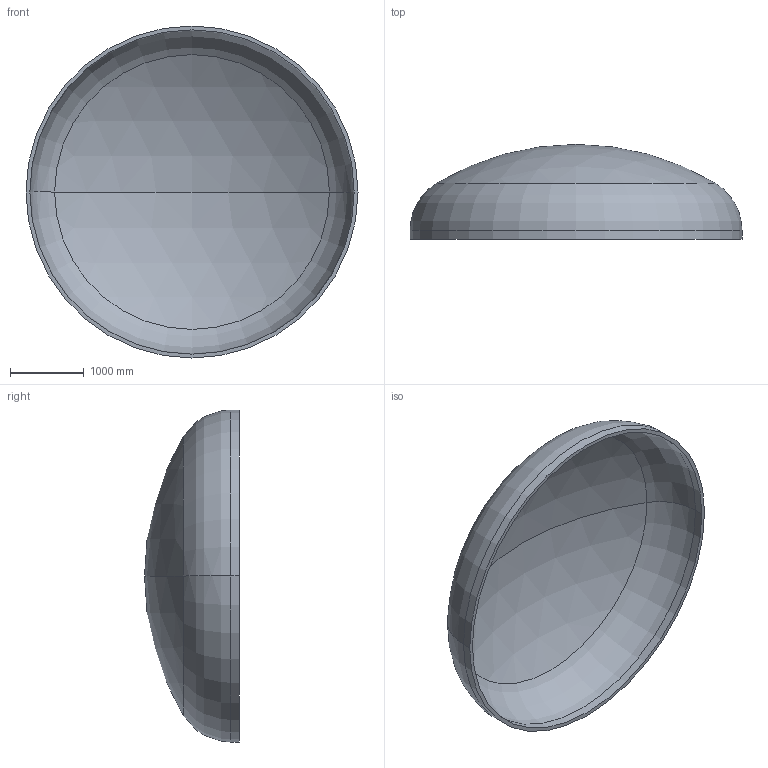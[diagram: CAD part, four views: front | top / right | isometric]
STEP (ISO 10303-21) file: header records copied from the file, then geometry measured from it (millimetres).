
FILE_DESCRIPTION (( 'STEP AP203' ), '1' );
FILE_NAME ('DIN 28013 Korbbogenform_-_Boden DIN 28013 - 4500 x 120 - I - s=52.step', '2016-07-01T23:32:41', ( '' ), ( '' ), 'SwSTEP 2.0', 'SolidWorks 2013', '' );
FILE_SCHEMA (( 'CONFIG_CONTROL_DESIGN' ));
Length unit declared in the file: millimetre
Products named in the file (1): DIN 28013 Korbbogenform_-_Boden DIN 28013 - 4500 x 120 - I - s=52
Bounding box: 4500 x 1286.04 x 4500 mm (x, y, z)
Volume: 1215884182.4 mm3; surface area: 47497060 mm2
Topology: 1 solids, 1 shells, 13 faces, 24 edges, 14 vertices
Faces by surface type: torus 4, cylinder 4, sphere 4, plane 1
Entity records: 407 total; most frequent: DIRECTION 72, CARTESIAN_POINT 52, ORIENTED_EDGE 48, AXIS2_PLACEMENT_3D 34, EDGE_CURVE 24, CIRCLE 20, EDGE_LOOP 14, VERTEX_POINT 14
